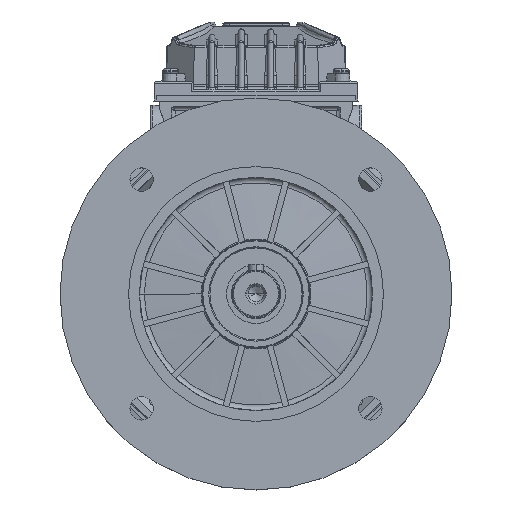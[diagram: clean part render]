
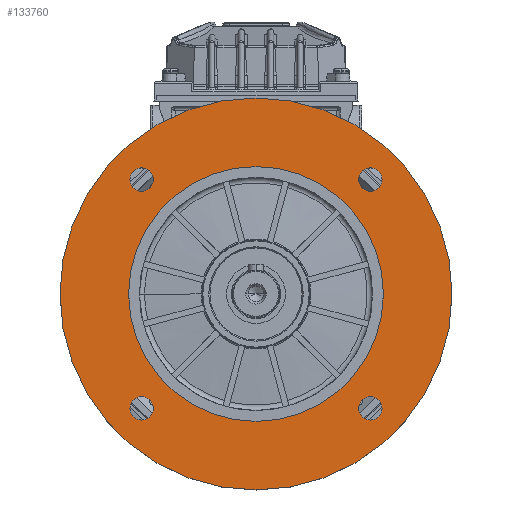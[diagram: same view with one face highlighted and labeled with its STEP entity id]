
A CAD part, top view. The second image highlights one B-rep face of the part: STEP entity #133760.
In plain terms, the highlighted planar face has unit normal (0, 0, 1) as drawn and (0, -1, 0) by its records, which use the part's own axes.
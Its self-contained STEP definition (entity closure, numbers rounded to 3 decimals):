
#875 = CARTESIAN_POINT ( 'NONE',  ( 58.336, 3.5, -58.336 ) ) ;
#2651 = CARTESIAN_POINT ( 'NONE',  ( 58.336, 3.5, -52.336 ) ) ;
#3573 = EDGE_CURVE ( 'NONE', #80946, #50070, #75615, .T. ) ;
#7432 = AXIS2_PLACEMENT_3D ( 'NONE', #156540, #21394, #102967 ) ;
#8686 = DIRECTION ( 'NONE',  ( 0., 1., 0. ) ) ;
#10838 = FACE_BOUND ( 'NONE', #62954, .T. ) ;
#12511 = ORIENTED_EDGE ( 'NONE', *, *, #56932, .F. ) ;
#14450 = DIRECTION ( 'NONE',  ( 0., 0., -1. ) ) ;
#15751 = EDGE_CURVE ( 'NONE', #90005, #160778, #48393, .T. ) ;
#16696 = VERTEX_POINT ( 'NONE', #61408 ) ;
#16817 = DIRECTION ( 'NONE',  ( 0., 0., -1. ) ) ;
#17227 = AXIS2_PLACEMENT_3D ( 'NONE', #60553, #159376, #75007 ) ;
#17414 = ORIENTED_EDGE ( 'NONE', *, *, #91768, .F. ) ;
#19002 = AXIS2_PLACEMENT_3D ( 'NONE', #124688, #97494, #167312 ) ;
#19305 = EDGE_CURVE ( 'NONE', #22527, #46556, #99600, .T. ) ;
#19479 = DIRECTION ( 'NONE',  ( 0., -1., 0. ) ) ;
#21197 = VERTEX_POINT ( 'NONE', #66684 ) ;
#21394 = DIRECTION ( 'NONE',  ( 0., -1., 0. ) ) ;
#21571 = ORIENTED_EDGE ( 'NONE', *, *, #19305, .F. ) ;
#22527 = VERTEX_POINT ( 'NONE', #118081 ) ;
#23463 = FACE_BOUND ( 'NONE', #83973, .T. ) ;
#24195 = EDGE_CURVE ( 'NONE', #46556, #22527, #149969, .T. ) ;
#27043 = ORIENTED_EDGE ( 'NONE', *, *, #55955, .F. ) ;
#32633 = ORIENTED_EDGE ( 'NONE', *, *, #162804, .T. ) ;
#34309 = DIRECTION ( 'NONE',  ( 0., -1., 0. ) ) ;
#36926 = EDGE_LOOP ( 'NONE', ( #12511, #17414 ) ) ;
#37390 = CARTESIAN_POINT ( 'NONE',  ( 58.336, 3.5, 58.336 ) ) ;
#38894 = FACE_OUTER_BOUND ( 'NONE', #36926, .T. ) ;
#41019 = CARTESIAN_POINT ( 'NONE',  ( 58.336, 3.5, -58.336 ) ) ;
#41918 = CIRCLE ( 'NONE', #62068, 6. ) ;
#43699 = EDGE_CURVE ( 'NONE', #68649, #53592, #117472, .T. ) ;
#44083 = CARTESIAN_POINT ( 'NONE',  ( 58.336, 3.5, -64.336 ) ) ;
#44768 = ORIENTED_EDGE ( 'NONE', *, *, #49126, .F. ) ;
#46556 = VERTEX_POINT ( 'NONE', #159928 ) ;
#46685 = CARTESIAN_POINT ( 'NONE',  ( 58.336, 3.5, 58.336 ) ) ;
#48393 = CIRCLE ( 'NONE', #149713, 6. ) ;
#49126 = EDGE_CURVE ( 'NONE', #160778, #90005, #115608, .T. ) ;
#50070 = VERTEX_POINT ( 'NONE', #2651 ) ;
#53030 = DIRECTION ( 'NONE',  ( 0., 0., 1. ) ) ;
#53592 = VERTEX_POINT ( 'NONE', #129848 ) ;
#53968 = CARTESIAN_POINT ( 'NONE',  ( 0., 3.5, 0. ) ) ;
#54260 = DIRECTION ( 'NONE',  ( 0., 0., -1. ) ) ;
#54372 = ORIENTED_EDGE ( 'NONE', *, *, #149687, .F. ) ;
#55955 = EDGE_CURVE ( 'NONE', #53592, #68649, #41918, .T. ) ;
#56932 = EDGE_CURVE ( 'NONE', #21197, #16696, #70986, .T. ) ;
#58753 = CIRCLE ( 'NONE', #125272, 100. ) ;
#60553 = CARTESIAN_POINT ( 'NONE',  ( -58.336, 3.5, -58.336 ) ) ;
#61408 = CARTESIAN_POINT ( 'NONE',  ( 0., 3.5, -100. ) ) ;
#62068 = AXIS2_PLACEMENT_3D ( 'NONE', #46685, #19479, #16817 ) ;
#62954 = EDGE_LOOP ( 'NONE', ( #54372, #149729 ) ) ;
#64289 = FACE_BOUND ( 'NONE', #167222, .T. ) ;
#65473 = DIRECTION ( 'NONE',  ( 0., -1., 0. ) ) ;
#66072 = FACE_BOUND ( 'NONE', #129869, .T. ) ;
#66684 = CARTESIAN_POINT ( 'NONE',  ( 0., 3.5, 100. ) ) ;
#67152 = CARTESIAN_POINT ( 'NONE',  ( -58.336, 3.5, -64.336 ) ) ;
#68386 = CARTESIAN_POINT ( 'NONE',  ( 58.336, 3.5, 52.336 ) ) ;
#68649 = VERTEX_POINT ( 'NONE', #68386 ) ;
#70473 = DIRECTION ( 'NONE',  ( 0., -1., 0. ) ) ;
#70986 = CIRCLE ( 'NONE', #19002, 100. ) ;
#72767 = AXIS2_PLACEMENT_3D ( 'NONE', #41019, #140715, #98936 ) ;
#75007 = DIRECTION ( 'NONE',  ( 0., 0., -1. ) ) ;
#75259 = CIRCLE ( 'NONE', #83931, 65. ) ;
#75615 = CIRCLE ( 'NONE', #72767, 6. ) ;
#75752 = ORIENTED_EDGE ( 'NONE', *, *, #24195, .F. ) ;
#77637 = CIRCLE ( 'NONE', #173295, 6. ) ;
#79458 = CARTESIAN_POINT ( 'NONE',  ( 0., 3.5, 65. ) ) ;
#80946 = VERTEX_POINT ( 'NONE', #44083 ) ;
#83247 = AXIS2_PLACEMENT_3D ( 'NONE', #176536, #34309, #144966 ) ;
#83931 = AXIS2_PLACEMENT_3D ( 'NONE', #150950, #8686, #53030 ) ;
#83973 = EDGE_LOOP ( 'NONE', ( #75752, #21571 ) ) ;
#90005 = VERTEX_POINT ( 'NONE', #67152 ) ;
#91768 = EDGE_CURVE ( 'NONE', #16696, #21197, #58753, .T. ) ;
#97494 = DIRECTION ( 'NONE',  ( 0., 1., 0. ) ) ;
#98388 = VERTEX_POINT ( 'NONE', #79458 ) ;
#98936 = DIRECTION ( 'NONE',  ( 0., 0., -1. ) ) ;
#99600 = CIRCLE ( 'NONE', #7432, 6. ) ;
#102967 = DIRECTION ( 'NONE',  ( 0., 0., -1. ) ) ;
#104648 = DIRECTION ( 'NONE',  ( 0., 1., 0. ) ) ;
#105864 = ORIENTED_EDGE ( 'NONE', *, *, #106486, .T. ) ;
#106486 = EDGE_CURVE ( 'NONE', #169619, #98388, #132782, .T. ) ;
#108018 = DIRECTION ( 'NONE',  ( 0., 0., -1. ) ) ;
#109225 = DIRECTION ( 'NONE',  ( 0., 1., 0. ) ) ;
#115608 = CIRCLE ( 'NONE', #17227, 6. ) ;
#117472 = CIRCLE ( 'NONE', #163856, 6. ) ;
#117530 = AXIS2_PLACEMENT_3D ( 'NONE', #123144, #178430, #54260 ) ;
#118081 = CARTESIAN_POINT ( 'NONE',  ( -58.336, 3.5, 52.336 ) ) ;
#119548 = PLANE ( 'NONE',  #117530 ) ;
#123144 = CARTESIAN_POINT ( 'NONE',  ( 0., 3.5, 65. ) ) ;
#124688 = CARTESIAN_POINT ( 'NONE',  ( 0., 3.5, 0. ) ) ;
#125272 = AXIS2_PLACEMENT_3D ( 'NONE', #145532, #104648, #133664 ) ;
#127097 = AXIS2_PLACEMENT_3D ( 'NONE', #53968, #109225, #164581 ) ;
#129848 = CARTESIAN_POINT ( 'NONE',  ( 58.336, 3.5, 64.336 ) ) ;
#129869 = EDGE_LOOP ( 'NONE', ( #27043, #169986 ) ) ;
#132782 = CIRCLE ( 'NONE', #127097, 65. ) ;
#133187 = FACE_BOUND ( 'NONE', #150106, .T. ) ;
#133664 = DIRECTION ( 'NONE',  ( 0., 0., 1. ) ) ;
#133760 = ADVANCED_FACE ( 'NONE', ( #10838, #66072, #23463, #133187, #64289, #38894 ), #119548, .T. ) ;
#134113 = CARTESIAN_POINT ( 'NONE',  ( -58.336, 3.5, -58.336 ) ) ;
#140715 = DIRECTION ( 'NONE',  ( 0., -1., 0. ) ) ;
#144966 = DIRECTION ( 'NONE',  ( 0., 0., -1. ) ) ;
#145019 = ORIENTED_EDGE ( 'NONE', *, *, #15751, .F. ) ;
#145239 = CARTESIAN_POINT ( 'NONE',  ( -58.336, 3.5, -52.336 ) ) ;
#145532 = CARTESIAN_POINT ( 'NONE',  ( 0., 3.5, 0. ) ) ;
#146026 = CARTESIAN_POINT ( 'NONE',  ( 0., 3.5, -65. ) ) ;
#149687 = EDGE_CURVE ( 'NONE', #50070, #80946, #77637, .T. ) ;
#149713 = AXIS2_PLACEMENT_3D ( 'NONE', #134113, #159598, #161354 ) ;
#149729 = ORIENTED_EDGE ( 'NONE', *, *, #3573, .F. ) ;
#149969 = CIRCLE ( 'NONE', #83247, 6. ) ;
#150106 = EDGE_LOOP ( 'NONE', ( #44768, #145019 ) ) ;
#150950 = CARTESIAN_POINT ( 'NONE',  ( 0., 3.5, 0. ) ) ;
#156540 = CARTESIAN_POINT ( 'NONE',  ( -58.336, 3.5, 58.336 ) ) ;
#159376 = DIRECTION ( 'NONE',  ( 0., -1., 0. ) ) ;
#159598 = DIRECTION ( 'NONE',  ( 0., -1., 0. ) ) ;
#159928 = CARTESIAN_POINT ( 'NONE',  ( -58.336, 3.5, 64.336 ) ) ;
#160778 = VERTEX_POINT ( 'NONE', #145239 ) ;
#161354 = DIRECTION ( 'NONE',  ( 0., 0., -1. ) ) ;
#162804 = EDGE_CURVE ( 'NONE', #98388, #169619, #75259, .T. ) ;
#163856 = AXIS2_PLACEMENT_3D ( 'NONE', #37390, #65473, #108018 ) ;
#164581 = DIRECTION ( 'NONE',  ( 0., 0., 1. ) ) ;
#167222 = EDGE_LOOP ( 'NONE', ( #32633, #105864 ) ) ;
#167312 = DIRECTION ( 'NONE',  ( 0., 0., 1. ) ) ;
#169619 = VERTEX_POINT ( 'NONE', #146026 ) ;
#169986 = ORIENTED_EDGE ( 'NONE', *, *, #43699, .F. ) ;
#173295 = AXIS2_PLACEMENT_3D ( 'NONE', #875, #70473, #14450 ) ;
#176536 = CARTESIAN_POINT ( 'NONE',  ( -58.336, 3.5, 58.336 ) ) ;
#178430 = DIRECTION ( 'NONE',  ( 0., -1., 0. ) ) ;
